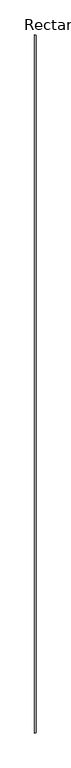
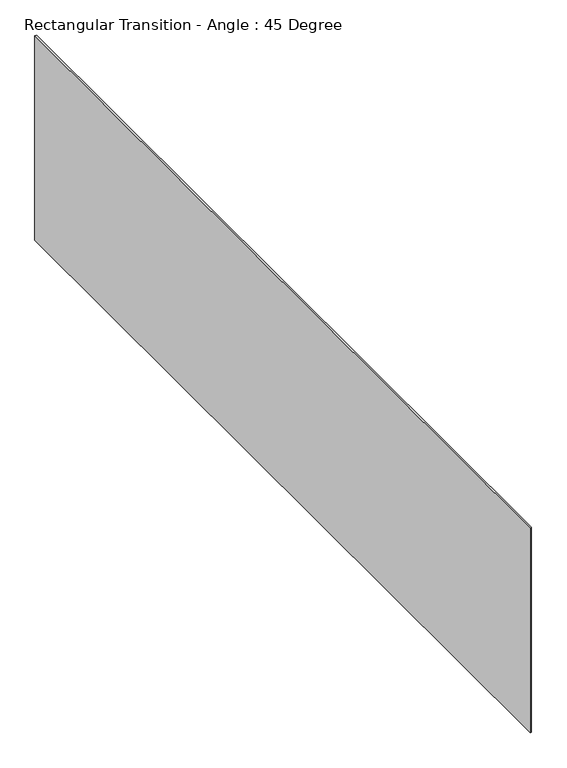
"""IFC4 building model written with IfcOpenShell, lengths in millimetres: duct fitting geometry, Rectangular Transition - Angle : 45 Degree."""

from ifc_helpers import new_model, si_unit, origin, place, context, project, spatial, faceted_brep, source, transform, mapped, element, save


def rectangular_transition_angle_45_degree_474c034c(model_context):
    return source(origin(), model_context, "Body", "Brep", [
        faceted_brep([(3.832564, -1054.1, 266.7), (3.832564, -1054.1, -266.7), (3.832564, 1054.1, -266.7), (3.832564, 1054.1, 266.7), (0.0, -1055.6875, 265.90625), (0.0, 1055.6875, 265.90625), (0.0, 1055.6875, -265.90625), (0.0, -1055.6875, -265.90625)], [[[0, 1, 2, 3]], [[4, 5, 6, 7]], [[4, 7, 1, 0]], [[7, 6, 2, 1]], [[6, 5, 3, 2]], [[5, 4, 0, 3]]]),
    ])


if __name__ == "__main__":
    model = new_model("IFC4")
    model_context = context("Model", 3, world=origin())
    ifc_project = project(units=[si_unit("LENGTHUNIT", "METRE", prefix="MILLI")], contexts=[model_context])
    site = spatial("IfcSite", under=ifc_project)
    building = spatial("IfcBuilding", under=site)
    placement = place(None, origin())
    rectangular_transition_angle_45_degree_shape = rectangular_transition_angle_45_degree_474c034c(model_context)
    element("IfcDuctFitting", 1, ObjectType="Rectangular Transition - Angle : 45 Degree", at=placement, inside=building, context=model_context, shape_type="MappedRepresentation", body=[
        mapped(rectangular_transition_angle_45_degree_shape, transform((0.0, 0.0, 0.0), x_axis=(1.0, 0.0, 0.0), y_axis=(0.0, 1.0, 0.0), z_axis=(0.0, 0.0, 1.0))),
    ])
    save(model, "model.ifc")
